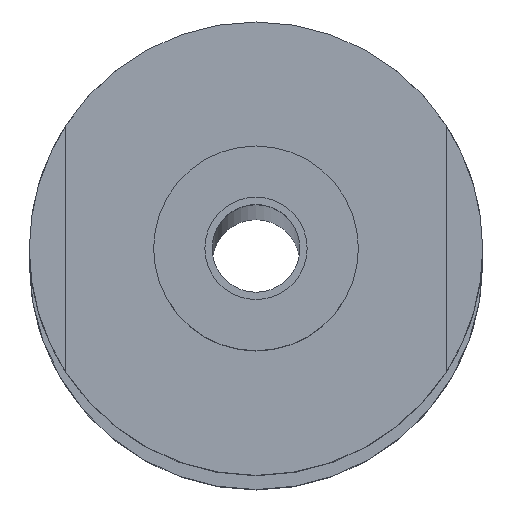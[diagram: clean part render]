
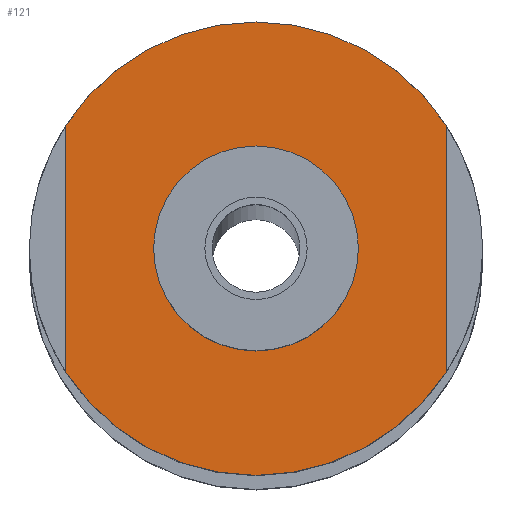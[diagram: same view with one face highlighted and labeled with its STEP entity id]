
A CAD part, top view. The second image highlights one B-rep face of the part: STEP entity #121.
In plain terms, the highlighted planar face has unit normal (0, 0, 1).
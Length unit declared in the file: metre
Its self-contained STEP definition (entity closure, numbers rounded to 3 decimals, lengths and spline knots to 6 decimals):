
#121=ADVANCED_FACE('37:1511',(#238,#239),#240,.T.);
#238=FACE_OUTER_BOUND('',#364,.T.);
#239=FACE_BOUND('',#365,.T.);
#240=PLANE('',#366);
#364=EDGE_LOOP('',(#596,#597,#598,#599,#600,#601));
#365=EDGE_LOOP('',(#602,#603));
#366=AXIS2_PLACEMENT_3D('',#604,#605,#606);
#596=ORIENTED_EDGE('',*,*,#761,.F.);
#597=ORIENTED_EDGE('',*,*,#760,.F.);
#598=ORIENTED_EDGE('',*,*,#756,.F.);
#599=ORIENTED_EDGE('',*,*,#688,.F.);
#600=ORIENTED_EDGE('',*,*,#687,.F.);
#601=ORIENTED_EDGE('',*,*,#751,.T.);
#602=ORIENTED_EDGE('',*,*,#749,.F.);
#603=ORIENTED_EDGE('',*,*,#693,.F.);
#604=CARTESIAN_POINT('',(0.0,0.0,2.935));
#605=DIRECTION('',(0.0,0.0,1.0));
#606=DIRECTION('',(1.0,0.0,0.0));
#687=EDGE_CURVE('37:1561',#812,#814,#815,.F.);
#688=EDGE_CURVE('37:1552',#814,#816,#817,.F.);
#693=EDGE_CURVE('',#822,#825,#826,.T.);
#749=EDGE_CURVE('37:1539',#825,#822,#907,.T.);
#751=EDGE_CURVE('37:3142',#812,#909,#910,.T.);
#756=EDGE_CURVE('37:2641',#816,#917,#918,.F.);
#760=EDGE_CURVE('37:1558',#917,#922,#923,.F.);
#761=EDGE_CURVE('37:1549',#922,#909,#924,.F.);
#812=VERTEX_POINT('',#1001);
#814=VERTEX_POINT('',#1004);
#815=CIRCLE('',#1005,0.0155);
#816=VERTEX_POINT('',#1006);
#817=CIRCLE('',#1007,0.0155);
#822=VERTEX_POINT('',#1013);
#825=VERTEX_POINT('',#1017);
#826=CIRCLE('',#1018,0.007);
#907=CIRCLE('',#1116,0.007);
#909=VERTEX_POINT('',#1118);
#910=LINE('',#1119,#1120);
#917=VERTEX_POINT('',#1130);
#918=LINE('',#1131,#1132);
#922=VERTEX_POINT('',#1137);
#923=CIRCLE('',#1138,0.0155);
#924=CIRCLE('',#1139,0.0155);
#1001=CARTESIAN_POINT('',(-0.013092,0.008536,2.935));
#1004=CARTESIAN_POINT('',(-0.000092,0.015595,2.935));
#1005=AXIS2_PLACEMENT_3D('',#1221,#1222,#1223);
#1006=CARTESIAN_POINT('',(0.012908,0.008536,2.935));
#1007=AXIS2_PLACEMENT_3D('',#1224,#1225,#1226);
#1013=CARTESIAN_POINT('',(0.006908,0.000095,2.935));
#1017=CARTESIAN_POINT('',(-0.007092,0.000095,2.935));
#1018=AXIS2_PLACEMENT_3D('',#1232,#1233,#1234);
#1116=AXIS2_PLACEMENT_3D('',#1318,#1319,#1320);
#1118=CARTESIAN_POINT('',(-0.013092,-0.008346,2.935));
#1119=CARTESIAN_POINT('',(-0.013092,0.000048,2.935));
#1120=VECTOR('',#1321,1.0);
#1130=CARTESIAN_POINT('',(0.012908,-0.008346,2.935));
#1131=CARTESIAN_POINT('',(0.012908,0.000048,2.935));
#1132=VECTOR('',#1325,1.0);
#1137=CARTESIAN_POINT('',(-0.000092,-0.015405,2.935));
#1138=AXIS2_PLACEMENT_3D('',#1330,#1331,#1332);
#1139=AXIS2_PLACEMENT_3D('',#1333,#1334,#1335);
#1221=CARTESIAN_POINT('',(-0.000092,0.000095,2.935));
#1222=DIRECTION('',(0.0,0.0,1.0));
#1223=DIRECTION('',(1.0,0.0,0.0));
#1224=CARTESIAN_POINT('',(-0.000092,0.000095,2.935));
#1225=DIRECTION('',(0.0,0.0,1.0));
#1226=DIRECTION('',(1.0,0.0,0.0));
#1232=CARTESIAN_POINT('',(-0.000092,0.000095,2.935));
#1233=DIRECTION('',(0.0,0.0,1.0));
#1234=DIRECTION('',(1.0,0.0,-0.0));
#1318=CARTESIAN_POINT('',(-0.000092,0.000095,2.935));
#1319=DIRECTION('',(0.0,0.0,1.0));
#1320=DIRECTION('',(1.0,0.0,-0.0));
#1321=DIRECTION('',(0.,-1.0,0.0));
#1325=DIRECTION('',(0.,1.0,0.0));
#1330=CARTESIAN_POINT('',(-0.000092,0.000095,2.935));
#1331=DIRECTION('',(0.0,0.0,1.0));
#1332=DIRECTION('',(1.0,0.0,0.0));
#1333=CARTESIAN_POINT('',(-0.000092,0.000095,2.935));
#1334=DIRECTION('',(0.0,0.0,1.0));
#1335=DIRECTION('',(1.0,0.0,0.0));
